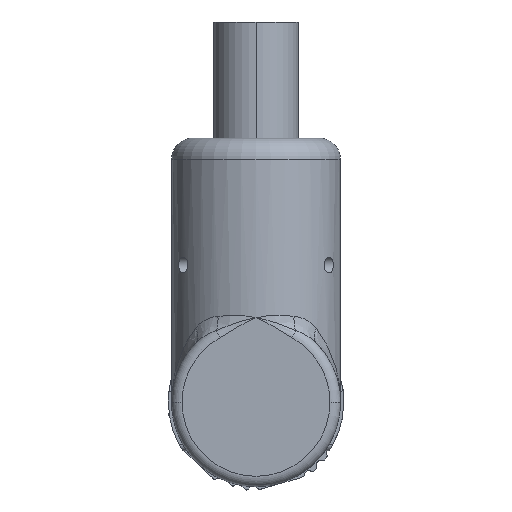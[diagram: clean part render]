
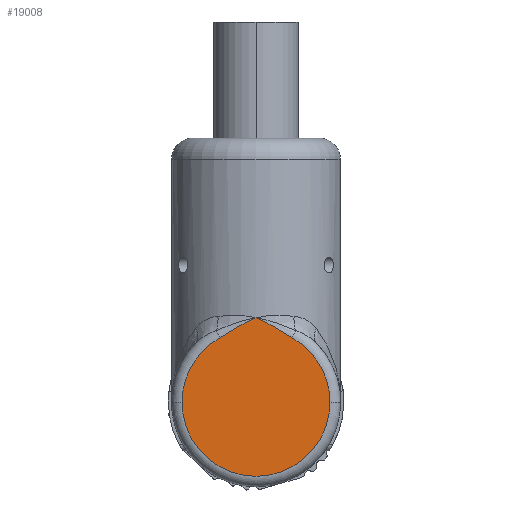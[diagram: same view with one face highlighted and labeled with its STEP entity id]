
A CAD part, front view. The second image highlights one B-rep face of the part: STEP entity #19008.
In plain terms, the highlighted planar face has unit normal (0, -1, 0).
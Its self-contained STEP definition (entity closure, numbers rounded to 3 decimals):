
#546 = DIRECTION ( 'NONE',  ( 0., -1., 0. ) ) ;
#1581 = CARTESIAN_POINT ( 'NONE',  ( 0., -42.35, 8. ) ) ;
#1626 = CARTESIAN_POINT ( 'NONE',  ( 0., -42.35, 0. ) ) ;
#1701 = CARTESIAN_POINT ( 'NONE',  ( 0., -42.35, 0. ) ) ;
#1912 = VERTEX_POINT ( 'NONE', #1581 ) ;
#3020 = EDGE_CURVE ( 'NONE', #1912, #29661, #23821, .T. ) ;
#4367 = CIRCLE ( 'NONE', #26372, 7. ) ;
#4591 = CARTESIAN_POINT ( 'NONE',  ( -0.605, -42.35, 7.771 ) ) ;
#4657 = DIRECTION ( 'NONE',  ( 0., -1., 0. ) ) ;
#4835 = ORIENTED_EDGE ( 'NONE', *, *, #29679, .T. ) ;
#5318 = CARTESIAN_POINT ( 'NONE',  ( -7., -42.35, 0. ) ) ;
#5340 = VERTEX_POINT ( 'NONE', #5318 ) ;
#5474 = CARTESIAN_POINT ( 'NONE',  ( 0.597, -42.35, 7.752 ) ) ;
#5834 = FACE_OUTER_BOUND ( 'NONE', #19988, .T. ) ;
#6845 = EDGE_CURVE ( 'NONE', #15491, #30682, #4367, .T. ) ;
#7262 = CARTESIAN_POINT ( 'NONE',  ( -2.285, -42.35, 6.798 ) ) ;
#10325 = DIRECTION ( 'NONE',  ( 0., -1., 0. ) ) ;
#11352 = CARTESIAN_POINT ( 'NONE',  ( 0.302, -42.35, 7.885 ) ) ;
#13254 = DIRECTION ( 'NONE',  ( 1., 0., 0. ) ) ;
#13652 = CARTESIAN_POINT ( 'NONE',  ( 0., -42.35, 8. ) ) ;
#13842 = DIRECTION ( 'NONE',  ( 1., 0., 0. ) ) ;
#14374 = CARTESIAN_POINT ( 'NONE',  ( 3.389, -42.35, 6.125 ) ) ;
#15276 = CARTESIAN_POINT ( 'NONE',  ( 3.389, -42.35, 6.125 ) ) ;
#15491 = VERTEX_POINT ( 'NONE', #19549 ) ;
#15522 = CARTESIAN_POINT ( 'NONE',  ( 0., -42.35, 0. ) ) ;
#15875 = B_SPLINE_CURVE_WITH_KNOTS ( 'NONE', 3,
 ( #14374, #23655, #39064, #38542, #26443, #5474, #11352, #35594 ),
 .UNSPECIFIED., .F., .F.,
 ( 4, 2, 2, 4 ),
 ( 0., 0.002, 0.003, 0.004 ),
 .UNSPECIFIED. ) ;
#18283 = AXIS2_PLACEMENT_3D ( 'NONE', #31396, #10325, #13254 ) ;
#19008 = ADVANCED_FACE ( 'NONE', ( #5834 ), #22668, .T. ) ;
#19549 = CARTESIAN_POINT ( 'NONE',  ( 7., -42.35, 0. ) ) ;
#19988 = EDGE_LOOP ( 'NONE', ( #4835, #36231, #37873, #34700, #36443 ) ) ;
#20101 = CIRCLE ( 'NONE', #18283, 7. ) ;
#21633 = DIRECTION ( 'NONE',  ( 1., 0., 0. ) ) ;
#22668 = PLANE ( 'NONE',  #36461 ) ;
#23393 = CARTESIAN_POINT ( 'NONE',  ( -3.389, -42.35, 6.125 ) ) ;
#23655 = CARTESIAN_POINT ( 'NONE',  ( 2.823, -42.35, 6.438 ) ) ;
#23821 = B_SPLINE_CURVE_WITH_KNOTS ( 'NONE', 3,
 ( #13652, #4591, #25277, #7262, #28471, #37917 ),
 .UNSPECIFIED., .F., .F.,
 ( 4, 2, 4 ),
 ( 0., 0.002, 0.004 ),
 .UNSPECIFIED. ) ;
#25277 = CARTESIAN_POINT ( 'NONE',  ( -1.176, -42.35, 7.464 ) ) ;
#26089 = DIRECTION ( 'NONE',  ( 1., 0., 0. ) ) ;
#26372 = AXIS2_PLACEMENT_3D ( 'NONE', #1626, #4657, #13842 ) ;
#26443 = CARTESIAN_POINT ( 'NONE',  ( 1.173, -42.35, 7.458 ) ) ;
#28471 = CARTESIAN_POINT ( 'NONE',  ( -2.823, -42.35, 6.438 ) ) ;
#28849 = CIRCLE ( 'NONE', #33747, 7. ) ;
#28998 = DIRECTION ( 'NONE',  ( 0., -1., 0. ) ) ;
#29661 = VERTEX_POINT ( 'NONE', #23393 ) ;
#29679 = EDGE_CURVE ( 'NONE', #30682, #1912, #15875, .T. ) ;
#30682 = VERTEX_POINT ( 'NONE', #15276 ) ;
#30775 = EDGE_CURVE ( 'NONE', #29661, #5340, #28849, .T. ) ;
#31396 = CARTESIAN_POINT ( 'NONE',  ( 0., -42.35, 0. ) ) ;
#32521 = EDGE_CURVE ( 'NONE', #5340, #15491, #20101, .T. ) ;
#33747 = AXIS2_PLACEMENT_3D ( 'NONE', #15522, #546, #21633 ) ;
#34700 = ORIENTED_EDGE ( 'NONE', *, *, #32521, .T. ) ;
#35594 = CARTESIAN_POINT ( 'NONE',  ( 0., -42.35, 8. ) ) ;
#36231 = ORIENTED_EDGE ( 'NONE', *, *, #3020, .T. ) ;
#36443 = ORIENTED_EDGE ( 'NONE', *, *, #6845, .T. ) ;
#36461 = AXIS2_PLACEMENT_3D ( 'NONE', #1701, #28998, #26089 ) ;
#37873 = ORIENTED_EDGE ( 'NONE', *, *, #30775, .T. ) ;
#37917 = CARTESIAN_POINT ( 'NONE',  ( -3.389, -42.35, 6.125 ) ) ;
#38542 = CARTESIAN_POINT ( 'NONE',  ( 1.454, -42.35, 7.297 ) ) ;
#39064 = CARTESIAN_POINT ( 'NONE',  ( 2.285, -42.35, 6.798 ) ) ;
